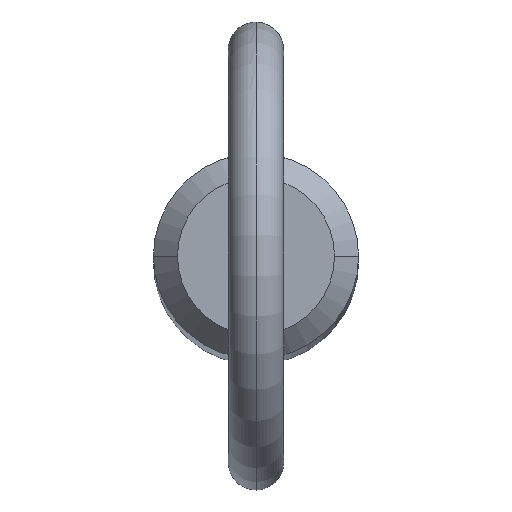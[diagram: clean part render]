
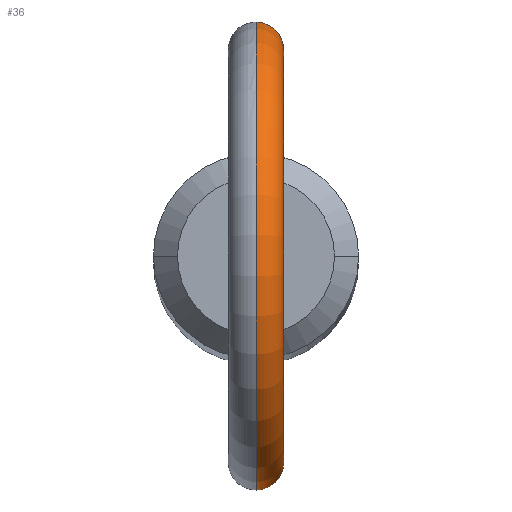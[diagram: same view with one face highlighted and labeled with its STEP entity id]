
A CAD part, top view. The second image highlights one B-rep face of the part: STEP entity #36.
In plain terms, the highlighted toroidal (fillet/blend) face has major radius 11.2 mm and minor radius 1.5 mm.
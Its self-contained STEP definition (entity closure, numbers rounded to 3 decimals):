
#1 = CARTESIAN_POINT ( 'NONE',  ( 1.44, -5.36, 165.986 ) ) ;
#2 = VERTEX_POINT ( 'NONE', #198 ) ;
#6 = CARTESIAN_POINT ( 'NONE',  ( 1.455, -5.356, 165.038 ) ) ;
#8 = B_SPLINE_CURVE_WITH_KNOTS ( 'NONE', 3,
 ( #317, #38, #285, #213, #441, #394, #483, #444, #252, #478, #161, #158, #206, #282, #249, #517, #403, #29, #356, #75, #520, #37, #78, #35 ),
 .UNSPECIFIED., .F., .F.,
 ( 4, 2, 2, 2, 2, 2, 2, 2, 2, 2, 2, 4 ),
 ( 0.001, 0.001, 0.001, 0.002, 0.002, 0.002, 0.003, 0.004, 0.004, 0.005, 0.005, 0.006 ),
 .UNSPECIFIED. ) ;
#9 = CARTESIAN_POINT ( 'NONE',  ( 0., -5.55, 163.877 ) ) ;
#19 = EDGE_CURVE ( 'NONE', #462, #500, #276, .T. ) ;
#20 = ORIENTED_EDGE ( 'NONE', *, *, #392, .F. ) ;
#29 = CARTESIAN_POINT ( 'NONE',  ( 1.003, 5.459, 166.825 ) ) ;
#34 = CARTESIAN_POINT ( 'NONE',  ( 0., -5.55, 167.345 ) ) ;
#35 = CARTESIAN_POINT ( 'NONE',  ( 0., 5.55, 167.345 ) ) ;
#36 = ADVANCED_FACE ( 'NONE', ( #376 ), #53, .T. ) ;
#37 = CARTESIAN_POINT ( 'NONE',  ( 0.422, 5.537, 167.278 ) ) ;
#38 = CARTESIAN_POINT ( 'NONE',  ( 0.107, 5.55, 163.877 ) ) ;
#41 = CARTESIAN_POINT ( 'NONE',  ( 0., 5.55, 163.877 ) ) ;
#45 = CARTESIAN_POINT ( 'NONE',  ( 1.477, -5.35, 165.144 ) ) ;
#47 = CARTESIAN_POINT ( 'NONE',  ( 1.055, -5.449, 164.305 ) ) ;
#52 = CARTESIAN_POINT ( 'NONE',  ( 0.421, -5.535, 163.932 ) ) ;
#53 = TOROIDAL_SURFACE ( 'NONE', #352, 11.2, 1.5 ) ;
#64 = VERTEX_POINT ( 'NONE', #34 ) ;
#75 = CARTESIAN_POINT ( 'NONE',  ( 0.779, 5.496, 167.048 ) ) ;
#78 = CARTESIAN_POINT ( 'NONE',  ( 0.213, 5.55, 167.345 ) ) ;
#87 = CARTESIAN_POINT ( 'NONE',  ( 0., -5.55, 167.345 ) ) ;
#88 = CARTESIAN_POINT ( 'NONE',  ( 0., 0., 175.3 ) ) ;
#96 = CIRCLE ( 'NONE', #284, 9.7 ) ;
#115 = DIRECTION ( 'NONE',  ( 1., 0., 0. ) ) ;
#135 = CARTESIAN_POINT ( 'NONE',  ( 0.417, -5.535, 167.267 ) ) ;
#158 = CARTESIAN_POINT ( 'NONE',  ( 1.486, 5.348, 165.138 ) ) ;
#161 = CARTESIAN_POINT ( 'NONE',  ( 1.393, 5.372, 164.833 ) ) ;
#162 = AXIS2_PLACEMENT_3D ( 'NONE', #343, #433, #311 ) ;
#168 = DIRECTION ( 'NONE',  ( 0., 0., -1. ) ) ;
#170 = CARTESIAN_POINT ( 'NONE',  ( 0.716, -5.504, 164.052 ) ) ;
#175 = CARTESIAN_POINT ( 'NONE',  ( 1.194, -5.422, 166.571 ) ) ;
#180 = CARTESIAN_POINT ( 'NONE',  ( 0.515, -5.527, 167.222 ) ) ;
#198 = CARTESIAN_POINT ( 'NONE',  ( 0., 5.55, 167.345 ) ) ;
#206 = CARTESIAN_POINT ( 'NONE',  ( 1.509, 5.341, 165.353 ) ) ;
#213 = CARTESIAN_POINT ( 'NONE',  ( 0.419, 5.535, 163.932 ) ) ;
#215 = DIRECTION ( 'NONE',  ( 0., 0., -1. ) ) ;
#223 = CARTESIAN_POINT ( 'NONE',  ( 1.503, -5.343, 165.459 ) ) ;
#229 = CARTESIAN_POINT ( 'NONE',  ( 1.295, -5.397, 166.382 ) ) ;
#232 = CARTESIAN_POINT ( 'NONE',  ( 0.213, -5.547, 163.888 ) ) ;
#238 = CARTESIAN_POINT ( 'NONE',  ( 0.107, -5.55, 163.877 ) ) ;
#249 = CARTESIAN_POINT ( 'NONE',  ( 1.44, 5.36, 165.988 ) ) ;
#252 = CARTESIAN_POINT ( 'NONE',  ( 1.251, 5.407, 164.55 ) ) ;
#263 = CARTESIAN_POINT ( 'NONE',  ( 1.486, -5.347, 165.774 ) ) ;
#276 = CIRCLE ( 'NONE', #162, 12.7 ) ;
#282 = CARTESIAN_POINT ( 'NONE',  ( 1.485, 5.348, 165.778 ) ) ;
#284 = AXIS2_PLACEMENT_3D ( 'NONE', #470, #115, #168 ) ;
#285 = CARTESIAN_POINT ( 'NONE',  ( 0.212, 5.547, 163.888 ) ) ;
#293 = EDGE_CURVE ( 'NONE', #2, #64, #96, .T. ) ;
#295 = CARTESIAN_POINT ( 'NONE',  ( 0.941, -5.471, 166.907 ) ) ;
#298 = CARTESIAN_POINT ( 'NONE',  ( 1.363, -5.38, 164.734 ) ) ;
#310 = EDGE_LOOP ( 'NONE', ( #20, #510, #487, #390 ) ) ;
#311 = DIRECTION ( 'NONE',  ( 0., 0., -1. ) ) ;
#317 = CARTESIAN_POINT ( 'NONE',  ( 0., 5.55, 163.877 ) ) ;
#335 = CARTESIAN_POINT ( 'NONE',  ( 1.26, -5.407, 164.543 ) ) ;
#337 = CARTESIAN_POINT ( 'NONE',  ( 0.106, -5.55, 167.345 ) ) ;
#343 = CARTESIAN_POINT ( 'NONE',  ( 0., 0., 175.3 ) ) ;
#352 = AXIS2_PLACEMENT_3D ( 'NONE', #88, #524, #215 ) ;
#356 = CARTESIAN_POINT ( 'NONE',  ( 0.933, 5.472, 166.904 ) ) ;
#364 = CARTESIAN_POINT ( 'NONE',  ( 0.977, -5.464, 164.232 ) ) ;
#368 = B_SPLINE_CURVE_WITH_KNOTS ( 'NONE', 3,
 ( #87, #337, #453, #135, #180, #488, #295, #175, #229, #1, #263, #223, #490, #45, #6, #298, #335, #47, #364, #407, #170, #378, #52, #232, #238, #9 ),
 .UNSPECIFIED., .F., .F.,
 ( 4, 2, 2, 2, 2, 2, 2, 2, 2, 2, 2, 2, 4 ),
 ( 0.005, 0.005, 0.005, 0.006, 0.006, 0.007, 0.007, 0.008, 0.008, 0.009, 0.009, 0.009, 0.01 ),
 .UNSPECIFIED. ) ;
#376 = FACE_OUTER_BOUND ( 'NONE', #310, .T. ) ;
#378 = CARTESIAN_POINT ( 'NONE',  ( 0.523, -5.526, 163.966 ) ) ;
#381 = CARTESIAN_POINT ( 'NONE',  ( 0., -5.55, 163.877 ) ) ;
#390 = ORIENTED_EDGE ( 'NONE', *, *, #293, .F. ) ;
#392 = EDGE_CURVE ( 'NONE', #462, #2, #8, .T. ) ;
#394 = CARTESIAN_POINT ( 'NONE',  ( 0.81, 5.494, 164.095 ) ) ;
#403 = CARTESIAN_POINT ( 'NONE',  ( 1.194, 5.422, 166.572 ) ) ;
#407 = CARTESIAN_POINT ( 'NONE',  ( 0.807, -5.492, 164.106 ) ) ;
#433 = DIRECTION ( 'NONE',  ( 1., 0., 0. ) ) ;
#441 = CARTESIAN_POINT ( 'NONE',  ( 0.522, 5.526, 163.965 ) ) ;
#444 = CARTESIAN_POINT ( 'NONE',  ( 1.19, 5.421, 164.462 ) ) ;
#453 = CARTESIAN_POINT ( 'NONE',  ( 0.214, -5.547, 167.328 ) ) ;
#462 = VERTEX_POINT ( 'NONE', #41 ) ;
#463 = EDGE_CURVE ( 'NONE', #64, #500, #368, .T. ) ;
#470 = CARTESIAN_POINT ( 'NONE',  ( 0., 0., 175.3 ) ) ;
#478 = CARTESIAN_POINT ( 'NONE',  ( 1.352, 5.383, 164.735 ) ) ;
#483 = CARTESIAN_POINT ( 'NONE',  ( 0.984, 5.464, 164.224 ) ) ;
#487 = ORIENTED_EDGE ( 'NONE', *, *, #463, .F. ) ;
#488 = CARTESIAN_POINT ( 'NONE',  ( 0.786, -5.497, 167.057 ) ) ;
#490 = CARTESIAN_POINT ( 'NONE',  ( 1.5, -5.343, 165.354 ) ) ;
#500 = VERTEX_POINT ( 'NONE', #381 ) ;
#510 = ORIENTED_EDGE ( 'NONE', *, *, #19, .T. ) ;
#517 = CARTESIAN_POINT ( 'NONE',  ( 1.294, 5.398, 166.385 ) ) ;
#520 = CARTESIAN_POINT ( 'NONE',  ( 0.694, 5.507, 167.114 ) ) ;
#524 = DIRECTION ( 'NONE',  ( 1., 0., 0. ) ) ;
